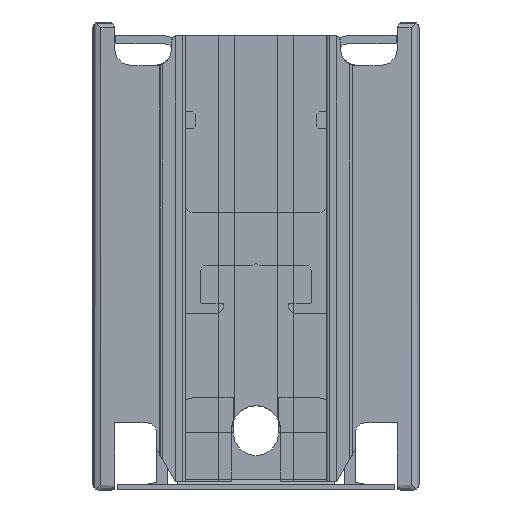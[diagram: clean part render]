
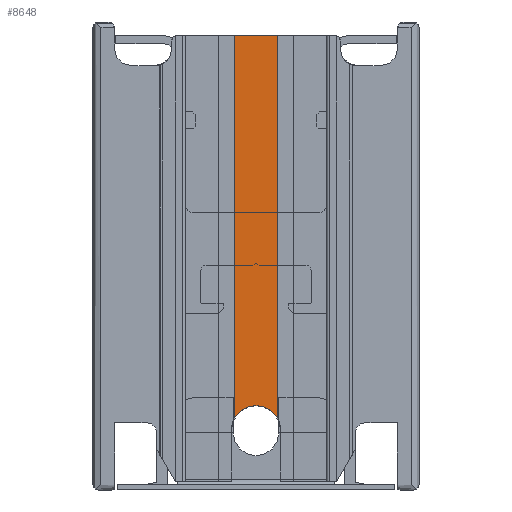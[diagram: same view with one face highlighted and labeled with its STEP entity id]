
A CAD part, front view. The second image highlights one B-rep face of the part: STEP entity #8648.
In plain terms, the highlighted planar face has unit normal (0, -1, 0).
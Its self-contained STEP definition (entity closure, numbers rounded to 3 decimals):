
#122 = EDGE_CURVE ( 'NONE', #11690, #5482, #13428, .T. ) ;
#352 = DIRECTION ( 'NONE',  ( 0., 0., -1. ) ) ;
#1038 = CIRCLE ( 'NONE', #5325, 4.5 ) ;
#1380 = EDGE_CURVE ( 'NONE', #11690, #9118, #3389, .T. ) ;
#2779 = VECTOR ( 'NONE', #352, 1000. ) ;
#2781 = DIRECTION ( 'NONE',  ( 0., 0., -1. ) ) ;
#3170 = CARTESIAN_POINT ( 'NONE',  ( 3311.35, -7715.7, 443.646 ) ) ;
#3389 = LINE ( 'NONE', #3627, #11616 ) ;
#3528 = CARTESIAN_POINT ( 'NONE',  ( 3335.1, -7715.7, 443.646 ) ) ;
#3627 = CARTESIAN_POINT ( 'NONE',  ( 3311.35, -7715.7, 441.146 ) ) ;
#3634 = CARTESIAN_POINT ( 'NONE',  ( 3342.9, -7715.7, 443.646 ) ) ;
#3942 = LINE ( 'NONE', #3634, #2779 ) ;
#4738 = AXIS2_PLACEMENT_3D ( 'NONE', #3170, #14896, #7749 ) ;
#5138 = DIRECTION ( 'NONE',  ( 0., -1., 0. ) ) ;
#5248 = CARTESIAN_POINT ( 'NONE',  ( 3342.9, -7715.7, 370.891 ) ) ;
#5293 = CARTESIAN_POINT ( 'NONE',  ( 3339., -7715.7, 368.646 ) ) ;
#5325 = AXIS2_PLACEMENT_3D ( 'NONE', #5293, #5138, #11114 ) ;
#5482 = VERTEX_POINT ( 'NONE', #10809 ) ;
#5842 = VERTEX_POINT ( 'NONE', #5248 ) ;
#5883 = ORIENTED_EDGE ( 'NONE', *, *, #10999, .F. ) ;
#6132 = AXIS2_PLACEMENT_3D ( 'NONE', #8840, #12440, #2781 ) ;
#6155 = EDGE_CURVE ( 'NONE', #14659, #5482, #1038, .T. ) ;
#6317 = VECTOR ( 'NONE', #8348, 1000. ) ;
#6355 = EDGE_LOOP ( 'NONE', ( #5883, #14141, #11954, #7047, #13219 ) ) ;
#7047 = ORIENTED_EDGE ( 'NONE', *, *, #122, .T. ) ;
#7257 = DIRECTION ( 'NONE',  ( 1., 0., 0. ) ) ;
#7749 = DIRECTION ( 'NONE',  ( 0., 0., -1. ) ) ;
#8341 = CARTESIAN_POINT ( 'NONE',  ( 3335.1, -7715.7, 441.146 ) ) ;
#8348 = DIRECTION ( 'NONE',  ( 0., 0., -1. ) ) ;
#8648 = ADVANCED_FACE ( 'NONE', ( #9161 ), #13942, .T. ) ;
#8840 = CARTESIAN_POINT ( 'NONE',  ( 3339., -7715.7, 368.646 ) ) ;
#9118 = VERTEX_POINT ( 'NONE', #13504 ) ;
#9161 = FACE_OUTER_BOUND ( 'NONE', #6355, .T. ) ;
#10809 = CARTESIAN_POINT ( 'NONE',  ( 3335.1, -7715.7, 370.891 ) ) ;
#10999 = EDGE_CURVE ( 'NONE', #5842, #14659, #11411, .T. ) ;
#11114 = DIRECTION ( 'NONE',  ( 0., 0., -1. ) ) ;
#11411 = CIRCLE ( 'NONE', #6132, 4.5 ) ;
#11616 = VECTOR ( 'NONE', #7257, 1000. ) ;
#11690 = VERTEX_POINT ( 'NONE', #8341 ) ;
#11954 = ORIENTED_EDGE ( 'NONE', *, *, #1380, .F. ) ;
#12440 = DIRECTION ( 'NONE',  ( 0., -1., 0. ) ) ;
#13219 = ORIENTED_EDGE ( 'NONE', *, *, #6155, .F. ) ;
#13428 = LINE ( 'NONE', #3528, #6317 ) ;
#13504 = CARTESIAN_POINT ( 'NONE',  ( 3342.9, -7715.7, 441.146 ) ) ;
#13942 = PLANE ( 'NONE',  #4738 ) ;
#14141 = ORIENTED_EDGE ( 'NONE', *, *, #14715, .F. ) ;
#14659 = VERTEX_POINT ( 'NONE', #15426 ) ;
#14715 = EDGE_CURVE ( 'NONE', #9118, #5842, #3942, .T. ) ;
#14896 = DIRECTION ( 'NONE',  ( 0., -1., 0. ) ) ;
#15426 = CARTESIAN_POINT ( 'NONE',  ( 3339., -7715.7, 373.146 ) ) ;
